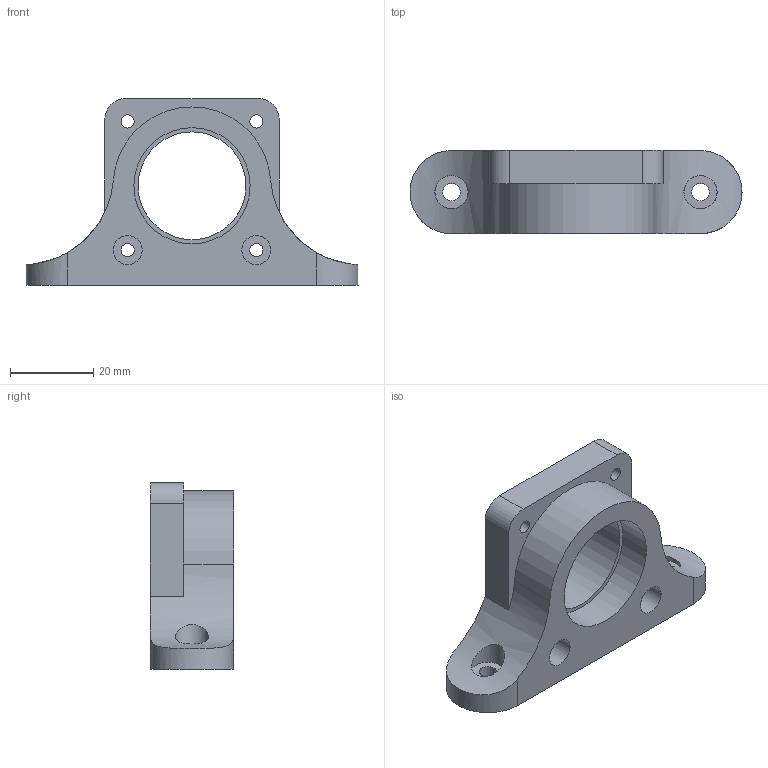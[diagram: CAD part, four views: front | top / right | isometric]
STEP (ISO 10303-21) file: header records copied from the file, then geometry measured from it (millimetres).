
FILE_DESCRIPTION(/* description */ ('STEP AP242','CAx-IF Rec.Pracs.---Representation and Presentation of Product Manufacturing Information (PMI)---4.0---2014-10-13','CAx-IF Rec.Pracs.---3D Tessellated Geometry---0.4---2014-09-14','2;1','CAx-IF Rec.Pracs.---User Defined Attributes---1.5---2016-08-15'),/* implementation_level */ '2;1');
FILE_NAME(/* name */ 'Full Assembly - Part 1 (7)',/* time_stamp */ '2025-11-03T04:00:12Z',/* author */ (''),/* organization */ (''),/* preprocessor_version */ 'ST-DEVELOPER v20',/* originating_system */ 'ONSHAPE BY PTC INC, 1.206',/* authorisation */ ' ');
FILE_SCHEMA (('AP242_MANAGED_MODEL_BASED_3D_ENGINEERING_MIM_LF { 1 0 10303 442 1 1 4 }'));
Length unit declared in the file: metre
Products named in the file (1): Part 1
Bounding box: 80 x 20 x 45 mm (x, y, z)
Volume: 27018 mm3; surface area: 10168.7 mm2
Topology: 1 solids, 1 shells, 31 faces, 77 edges, 53 vertices
Faces by surface type: cylinder 19, plane 12
Full cylindrical faces by diameter (mm): 3.2 x4, 4.2 x2, 7 x2, 8 x2, 26 x1, 28 x1
Entity records: 942 total; most frequent: CARTESIAN_POINT 198, DIRECTION 156, ORIENTED_EDGE 120, AXIS2_PLACEMENT_3D 68, EDGE_LOOP 62, FACE_BOUND 62, EDGE_CURVE 60, VERTEX_POINT 48
